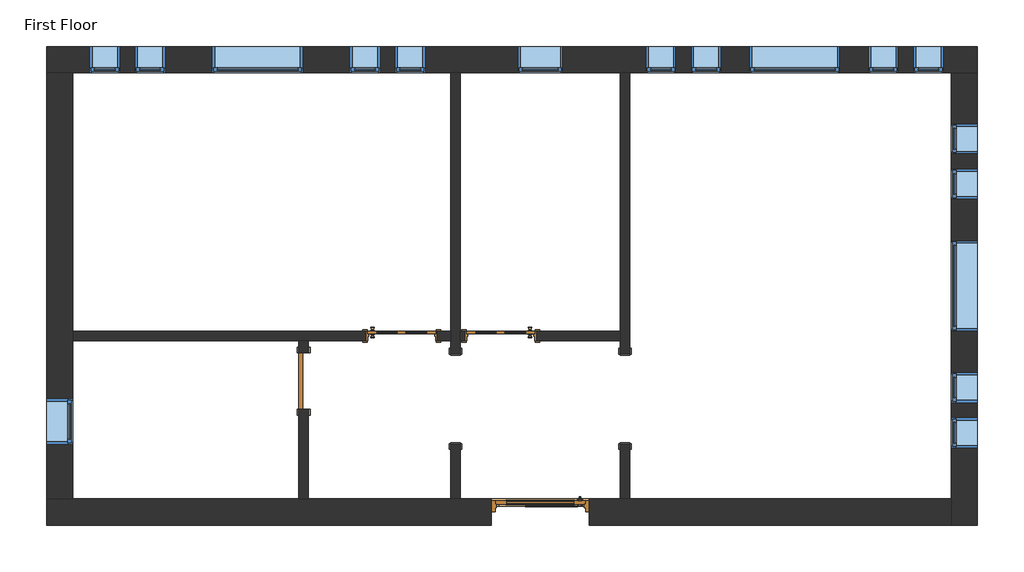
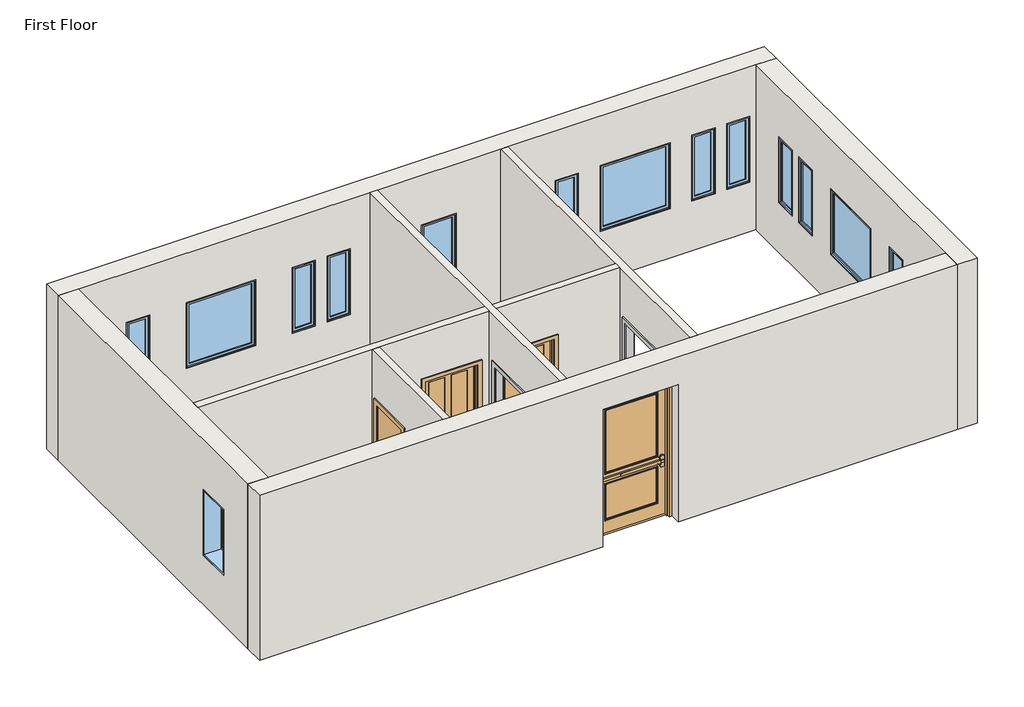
# One storey: 17 windows, 8 walls, 4 doors, 2 proxies.
"""IFC4 building model written with IfcOpenShell, lengths in millimetres."""

from ifc_helpers import new_model, si_unit, frame, origin, place, context, project, spatial, polyline, outline, extrude, faceted_brep, transform, mapped, element, save
from components import proxy_f44482cc, proxy_d58c73d0, door_734823c0, door_3a280f7b, door_48307b55, door_4d6c7550, window_da97879f, window_d61ef850, window_60baf983, window_6eb97611

model = new_model("IFC4")

# Units and contexts
model_context = context("Model", 3, world=origin())
ifc_project = project(units=[si_unit("LENGTHUNIT", "METRE", prefix="MILLI")], contexts=[model_context])

# Site, building, storey
site = spatial("IfcSite", under=ifc_project)
building = spatial("IfcBuilding", under=site)
storey = spatial("IfcBuildingStorey", under=building, Name="First Floor", Elevation=0.0)

# Proxies
placement = place(None, origin())
proxy_shape = proxy_f44482cc(model_context)
element("IfcBuildingElementProxy", 1, Name="Passage Opening-Cased : 48\" x 84\"", ObjectType="Passage Opening-Cased : 48\" x 84\"", at=placement, inside=storey, context=model_context, shape_type="MappedRepresentation", body=[
    mapped(proxy_shape, transform((-8577.1844712, 3224.0452741, 0.0), x_axis=(0.0, 1.0, 0.0), y_axis=(-1.0, 0.0, 0.0), z_axis=(0.0, 0.0, 1.0))),
])
proxy_2_shape = proxy_d58c73d0(model_context)
element("IfcBuildingElementProxy", 2, Name="Passage Opening-Cased : 48\" x 84\"", ObjectType="Passage Opening-Cased : 48\" x 84\"", at=placement, inside=storey, context=model_context, shape_type="MappedRepresentation", body=[
    mapped(proxy_2_shape, transform((-10863.1844712, 3224.0452741, 0.0), x_axis=(0.0, 1.0, 0.0), y_axis=(-1.0, 0.0, 0.0), z_axis=(0.0, 0.0, 1.0))),
])

# Doors
door_shape = door_734823c0(model_context)
element("IfcDoor", 3, ObjectType="Door-Exterior-Single-Two_Lite : 48\" x 96\"", at=placement, inside=storey, context=model_context, shape_type="MappedRepresentation", body=[
    mapped(door_shape, transform((-9720.1844712, 1685.5066174, 0.0), x_axis=(-1.0, 0.0, 0.0), y_axis=(0.0, -1.0, 0.0), z_axis=(0.0, 0.0, 1.0))),
])
door_2_shape = door_3a280f7b(model_context)
element("IfcDoor", 4, ObjectType="Door-Interior-Single-4_Panel-Wood : 36\" x 84\"", at=placement, inside=storey, context=model_context, shape_type="MappedRepresentation", body=[
    mapped(door_2_shape, transform((-10253.5844712, 4068.3441174, 0.0), x_axis=(-1.0, 0.0, 0.0), y_axis=(0.0, -1.0, 0.0), z_axis=(0.0, 0.0, 1.0))),
])
door_3_shape = door_48307b55(model_context)
element("IfcDoor", 5, ObjectType="Door-Interior-Single-4_Panel-Wood : 36\" x 84\"", at=placement, inside=storey, context=model_context, shape_type="MappedRepresentation", body=[
    mapped(door_3_shape, transform((-11588.6719712, 4068.3441174, 0.0), x_axis=(1.0, 0.0, 0.0), y_axis=(0.0, 1.0, 0.0), z_axis=(0.0, 0.0, 1.0))),
])
door_4_shape = door_4d6c7550(model_context)
element("IfcDoor", 6, ObjectType="Single-Flush : 30\" x 84\"", at=placement, inside=storey, context=model_context, shape_type="MappedRepresentation", body=[
    mapped(door_4_shape, transform((-12909.4719712, 3455.5691174, 0.0), x_axis=(0.0, 1.0, 0.0), y_axis=(-1.0, 0.0, 0.0), z_axis=(0.0, 0.0, 1.0))),
])

# Walls
element("IfcWall", 7, ObjectType="Exterior - Brick on Mtl. Stud", at=placement, inside=storey, context=model_context, shape_type="Brep", body=[
    faceted_brep([(-16373.3969712, 7611.6441174, 0.0), (-16020.9719712, 7611.6441174, 0.0), (-10926.6844712, 7611.6441174, 0.0), (-10799.6844712, 7611.6441174, 0.0), (-8640.6844712, 7611.6441174, 0.0), (-8513.6844712, 7611.6441174, 0.0), (-4181.3969712, 7611.6441174, 0.0), (-3828.9719712, 7611.6441174, 0.0), (-3828.9719712, 7611.6441174, 3048.0), (-4181.3969712, 7611.6441174, 3048.0), (-8513.6844712, 7611.6441174, 3048.0), (-8640.6844712, 7611.6441174, 3048.0), (-10799.6844712, 7611.6441174, 3048.0), (-10926.6844712, 7611.6441174, 3048.0), (-16020.9719712, 7611.6441174, 3048.0), (-16373.3969712, 7611.6441174, 3048.0), (-10024.9844712, 7611.6441174, 2133.6), (-9415.3844712, 7611.6441174, 2133.6), (-9415.3844712, 7611.6441174, 914.4), (-10024.9844712, 7611.6441174, 914.4), (-14139.7844712, 7611.6441174, 2133.6), (-12920.5844712, 7611.6441174, 2133.6), (-12920.5844712, 7611.6441174, 914.4), (-14139.7844712, 7611.6441174, 914.4), (-6900.7844712, 7611.6441174, 2133.6), (-5681.5844712, 7611.6441174, 2133.6), (-5681.5844712, 7611.6441174, 914.4), (-6900.7844712, 7611.6441174, 914.4), (-15790.7844712, 7611.6441174, 2133.6), (-15384.3844712, 7611.6441174, 2133.6), (-15384.3844712, 7611.6441174, 914.4), (-15790.7844712, 7611.6441174, 914.4), (-15181.1844712, 7611.6441174, 2133.6), (-14774.7844712, 7611.6441174, 2133.6), (-14774.7844712, 7611.6441174, 914.4), (-15181.1844712, 7611.6441174, 914.4), (-11879.1844712, 7611.6441174, 2133.6), (-11879.1844712, 7611.6441174, 914.4), (-12285.5844712, 7611.6441174, 914.4), (-12285.5844712, 7611.6441174, 2133.6), (-11269.5844712, 7611.6441174, 2133.6), (-11269.5844712, 7611.6441174, 914.4), (-11675.9844712, 7611.6441174, 914.4), (-11675.9844712, 7611.6441174, 2133.6), (-7688.1844712, 7611.6441174, 2133.6), (-7281.7844712, 7611.6441174, 2133.6), (-7281.7844712, 7611.6441174, 914.4), (-7688.1844712, 7611.6441174, 914.4), (-8297.7844712, 7611.6441174, 2133.6), (-7891.3844712, 7611.6441174, 2133.6), (-7891.3844712, 7611.6441174, 914.4), (-8297.7844712, 7611.6441174, 914.4), (-4894.1844712, 7611.6441174, 2133.6), (-4894.1844712, 7611.6441174, 914.4), (-5300.5844712, 7611.6441174, 914.4), (-5300.5844712, 7611.6441174, 2133.6), (-4284.5844712, 7611.6441174, 2133.6), (-4284.5844712, 7611.6441174, 914.4), (-4690.9844712, 7611.6441174, 914.4), (-4690.9844712, 7611.6441174, 2133.6), (-16373.3969712, 7964.0691174, 0.0), (-16373.3969712, 7964.0691174, 3048.0), (-3828.9719712, 7964.0691174, 3048.0), (-3828.9719712, 7964.0691174, 0.0), (-10024.9844712, 7964.0691174, 2133.6), (-10024.9844712, 7964.0691174, 914.4), (-9415.3844712, 7964.0691174, 914.4), (-9415.3844712, 7964.0691174, 2133.6), (-14139.7844712, 7964.0691174, 2133.6), (-14139.7844712, 7964.0691174, 914.4), (-12920.5844712, 7964.0691174, 914.4), (-12920.5844712, 7964.0691174, 2133.6), (-6900.7844712, 7964.0691174, 2133.6), (-6900.7844712, 7964.0691174, 914.4), (-5681.5844712, 7964.0691174, 914.4), (-5681.5844712, 7964.0691174, 2133.6), (-15790.7844712, 7964.0691174, 2133.6), (-15790.7844712, 7964.0691174, 914.4), (-15384.3844712, 7964.0691174, 914.4), (-15384.3844712, 7964.0691174, 2133.6), (-15181.1844712, 7964.0691174, 2133.6), (-15181.1844712, 7964.0691174, 914.4), (-14774.7844712, 7964.0691174, 914.4), (-14774.7844712, 7964.0691174, 2133.6), (-11879.1844712, 7964.0691174, 2133.6), (-12285.5844712, 7964.0691174, 2133.6), (-12285.5844712, 7964.0691174, 914.4), (-11879.1844712, 7964.0691174, 914.4), (-11269.5844712, 7964.0691174, 2133.6), (-11675.9844712, 7964.0691174, 2133.6), (-11675.9844712, 7964.0691174, 914.4), (-11269.5844712, 7964.0691174, 914.4), (-7688.1844712, 7964.0691174, 2133.6), (-7688.1844712, 7964.0691174, 914.4), (-7281.7844712, 7964.0691174, 914.4), (-7281.7844712, 7964.0691174, 2133.6), (-8297.7844712, 7964.0691174, 2133.6), (-8297.7844712, 7964.0691174, 914.4), (-7891.3844712, 7964.0691174, 914.4), (-7891.3844712, 7964.0691174, 2133.6), (-4894.1844712, 7964.0691174, 2133.6), (-5300.5844712, 7964.0691174, 2133.6), (-5300.5844712, 7964.0691174, 914.4), (-4894.1844712, 7964.0691174, 914.4), (-4284.5844712, 7964.0691174, 2133.6), (-4690.9844712, 7964.0691174, 2133.6), (-4690.9844712, 7964.0691174, 914.4), (-4284.5844712, 7964.0691174, 914.4)], [[[0, 1, 2, 3, 4, 5, 6, 7, 8, 9, 10, 11, 12, 13, 14, 15], [16, 17, 18, 19], [20, 21, 22, 23], [24, 25, 26, 27], [28, 29, 30, 31], [32, 33, 34, 35], [36, 37, 38, 39], [40, 41, 42, 43], [44, 45, 46, 47], [48, 49, 50, 51], [52, 53, 54, 55], [56, 57, 58, 59]], [[60, 61, 62, 63], [64, 65, 66, 67], [68, 69, 70, 71], [72, 73, 74, 75], [76, 77, 78, 79], [80, 81, 82, 83], [84, 85, 86, 87], [88, 89, 90, 91], [92, 93, 94, 95], [96, 97, 98, 99], [100, 101, 102, 103], [104, 105, 106, 107]], [[7, 6, 5, 4, 3, 2, 1, 0, 60, 63]], [[15, 14, 13, 12, 11, 10, 9, 8, 62, 61]], [[8, 7, 63, 62]], [[0, 15, 61, 60]], [[65, 64, 16, 19]], [[66, 65, 19, 18]], [[67, 66, 18, 17]], [[64, 67, 17, 16]], [[69, 68, 20, 23]], [[70, 69, 23, 22]], [[71, 70, 22, 21]], [[68, 71, 21, 20]], [[73, 72, 24, 27]], [[74, 73, 27, 26]], [[75, 74, 26, 25]], [[72, 75, 25, 24]], [[77, 76, 28, 31]], [[78, 77, 31, 30]], [[79, 78, 30, 29]], [[76, 79, 29, 28]], [[81, 80, 32, 35]], [[82, 81, 35, 34]], [[83, 82, 34, 33]], [[80, 83, 33, 32]], [[37, 36, 84, 87]], [[38, 37, 87, 86]], [[39, 38, 86, 85]], [[36, 39, 85, 84]], [[41, 40, 88, 91]], [[42, 41, 91, 90]], [[43, 42, 90, 89]], [[40, 43, 89, 88]], [[93, 92, 44, 47]], [[94, 93, 47, 46]], [[95, 94, 46, 45]], [[92, 95, 45, 44]], [[97, 96, 48, 51]], [[98, 97, 51, 50]], [[99, 98, 50, 49]], [[96, 99, 49, 48]], [[53, 52, 100, 103]], [[54, 53, 103, 102]], [[55, 54, 102, 101]], [[52, 55, 101, 100]], [[57, 56, 104, 107]], [[58, 57, 107, 106]], [[59, 58, 106, 105]], [[56, 59, 105, 104]]]),
])
element("IfcWall", 8, ObjectType="Exterior - Brick on Mtl. Stud", at=placement, inside=storey, context=model_context, shape_type="Brep", body=[
    faceted_brep([(-4181.3969712, 7611.6441174, 0.0), (-4181.3969712, 1868.0691174, 0.0), (-4181.3969712, 1515.6441174, 0.0), (-4181.3969712, 1515.6441174, 3048.0), (-4181.3969712, 1868.0691174, 3048.0), (-4181.3969712, 7611.6441174, 3048.0), (-4181.3969712, 5349.4566174, 2133.6), (-4181.3969712, 4130.2566174, 2133.6), (-4181.3969712, 4130.2566174, 914.4), (-4181.3969712, 5349.4566174, 914.4), (-4181.3969712, 6314.6566174, 2133.6), (-4181.3969712, 5908.2566174, 2133.6), (-4181.3969712, 5908.2566174, 914.4), (-4181.3969712, 6314.6566174, 914.4), (-4181.3969712, 6924.2566174, 2133.6), (-4181.3969712, 6517.8566174, 2133.6), (-4181.3969712, 6517.8566174, 914.4), (-4181.3969712, 6924.2566174, 914.4), (-4181.3969712, 3165.0566174, 2133.6), (-4181.3969712, 3165.0566174, 914.4), (-4181.3969712, 3571.4566174, 914.4), (-4181.3969712, 3571.4566174, 2133.6), (-4181.3969712, 2555.4566174, 2133.6), (-4181.3969712, 2555.4566174, 914.4), (-4181.3969712, 2961.8566174, 914.4), (-4181.3969712, 2961.8566174, 2133.6), (-3828.9719712, 7611.6441174, 0.0), (-3828.9719712, 7611.6441174, 3048.0), (-3828.9719712, 1515.6441174, 3048.0), (-3828.9719712, 1515.6441174, 0.0), (-3828.9719712, 5349.4566174, 2133.6), (-3828.9719712, 5349.4566174, 914.4), (-3828.9719712, 4130.2566174, 914.4), (-3828.9719712, 4130.2566174, 2133.6), (-3828.9719712, 6314.6566174, 2133.6), (-3828.9719712, 6314.6566174, 914.4), (-3828.9719712, 5908.2566174, 914.4), (-3828.9719712, 5908.2566174, 2133.6), (-3828.9719712, 6924.2566174, 2133.6), (-3828.9719712, 6924.2566174, 914.4), (-3828.9719712, 6517.8566174, 914.4), (-3828.9719712, 6517.8566174, 2133.6), (-3828.9719712, 3165.0566174, 2133.6), (-3828.9719712, 3571.4566174, 2133.6), (-3828.9719712, 3571.4566174, 914.4), (-3828.9719712, 3165.0566174, 914.4), (-3828.9719712, 2555.4566174, 2133.6), (-3828.9719712, 2961.8566174, 2133.6), (-3828.9719712, 2961.8566174, 914.4), (-3828.9719712, 2555.4566174, 914.4)], [[[0, 1, 2, 3, 4, 5], [6, 7, 8, 9], [10, 11, 12, 13], [14, 15, 16, 17], [18, 19, 20, 21], [22, 23, 24, 25]], [[26, 27, 28, 29], [30, 31, 32, 33], [34, 35, 36, 37], [38, 39, 40, 41], [42, 43, 44, 45], [46, 47, 48, 49]], [[2, 1, 0, 26, 29]], [[5, 4, 3, 28, 27]], [[0, 5, 27, 26]], [[3, 2, 29, 28]], [[31, 30, 6, 9]], [[32, 31, 9, 8]], [[33, 32, 8, 7]], [[30, 33, 7, 6]], [[35, 34, 10, 13]], [[36, 35, 13, 12]], [[37, 36, 12, 11]], [[34, 37, 11, 10]], [[39, 38, 14, 17]], [[40, 39, 17, 16]], [[41, 40, 16, 15]], [[38, 41, 15, 14]], [[19, 18, 42, 45]], [[20, 19, 45, 44]], [[21, 20, 44, 43]], [[18, 21, 43, 42]], [[23, 22, 46, 49]], [[24, 23, 49, 48]], [[25, 24, 48, 47]], [[22, 25, 47, 46]]]),
])
element("IfcWall", 9, ObjectType="Exterior - Brick on Mtl. Stud", at=placement, inside=storey, context=model_context, shape_type="Brep", body=[
    faceted_brep([(-16373.3969712, 1868.0691174, 3048.0), (-16020.9719712, 1868.0691174, 3048.0), (-12972.9719712, 1868.0691174, 3048.0), (-12845.9719712, 1868.0691174, 3048.0), (-10926.6844712, 1868.0691174, 3048.0), (-10799.6844712, 1868.0691174, 3048.0), (-8640.6844712, 1868.0691174, 3048.0), (-8513.6844712, 1868.0691174, 3048.0), (-4181.3969712, 1868.0691174, 3048.0), (-4181.3969712, 1868.0691174, 0.0), (-8513.6844712, 1868.0691174, 0.0), (-8640.6844712, 1868.0691174, 0.0), (-9059.7844712, 1868.0691174, 0.0), (-9059.7844712, 1868.0691174, 2540.0), (-10380.5844712, 1868.0691174, 2540.0), (-10380.5844712, 1868.0691174, 0.0), (-10799.6844712, 1868.0691174, 0.0), (-10926.6844712, 1868.0691174, 0.0), (-12845.9719712, 1868.0691174, 0.0), (-12972.9719712, 1868.0691174, 0.0), (-16020.9719712, 1868.0691174, 0.0), (-16373.3969712, 1868.0691174, 0.0), (-4181.3969712, 1515.6441174, 3048.0), (-16373.3969712, 1515.6441174, 3048.0), (-16373.3969712, 1515.6441174, 0.0), (-10380.5844712, 1515.6441174, 0.0), (-10380.5844712, 1515.6441174, 2540.0), (-9059.7844712, 1515.6441174, 2540.0), (-9059.7844712, 1515.6441174, 0.0), (-4181.3969712, 1515.6441174, 0.0)], [[[0, 1, 2, 3, 4, 5, 6, 7, 8, 9, 10, 11, 12, 13, 14, 15, 16, 17, 18, 19, 20, 21]], [[22, 23, 24, 25, 26, 27, 28, 29]], [[9, 29, 28, 12, 11, 10]], [[24, 21, 20, 19, 18, 17, 16, 15, 25]], [[8, 7, 6, 5, 4, 3, 2, 1, 0, 23, 22]], [[9, 8, 22, 29]], [[0, 21, 24, 23]], [[14, 26, 25, 15]], [[26, 14, 13, 27]], [[27, 13, 12, 28]]]),
])
element("IfcWall", 10, ObjectType="Exterior - Brick on Mtl. Stud", at=placement, inside=storey, context=model_context, shape_type="Brep", body=[
    faceted_brep([(-16020.9719712, 1868.0691174, 0.0), (-16020.9719712, 4001.6691174, 0.0), (-16020.9719712, 4128.6691174, 0.0), (-16020.9719712, 7611.6441174, 0.0), (-16020.9719712, 7611.6441174, 3048.0), (-16020.9719712, 4128.6691174, 3048.0), (-16020.9719712, 4001.6691174, 3048.0), (-16020.9719712, 1868.0691174, 3048.0), (-16020.9719712, 2606.2566174, 2133.6), (-16020.9719712, 3215.8566174, 2133.6), (-16020.9719712, 3215.8566174, 914.4), (-16020.9719712, 2606.2566174, 914.4), (-16373.3969712, 1868.0691174, 0.0), (-16373.3969712, 1868.0691174, 3048.0), (-16373.3969712, 7611.6441174, 3048.0), (-16373.3969712, 7611.6441174, 0.0), (-16373.3969712, 2606.2566174, 2133.6), (-16373.3969712, 2606.2566174, 914.4), (-16373.3969712, 3215.8566174, 914.4), (-16373.3969712, 3215.8566174, 2133.6)], [[[0, 1, 2, 3, 4, 5, 6, 7], [8, 9, 10, 11]], [[12, 13, 14, 15], [16, 17, 18, 19]], [[3, 2, 1, 0, 12, 15]], [[7, 6, 5, 4, 14, 13]], [[0, 7, 13, 12]], [[4, 3, 15, 14]], [[17, 16, 8, 11]], [[18, 17, 11, 10]], [[19, 18, 10, 9]], [[16, 19, 9, 8]]]),
])
element("IfcWall", 11, ObjectType="Interior - 5\" Partition (2-hr)", at=placement, inside=storey, context=model_context, shape_type="Brep", body=[
    faceted_brep([(-8640.6844712, 7611.6441174, 0.0), (-8640.6844712, 4128.6691174, 0.0), (-8640.6844712, 4001.6691174, 0.0), (-8640.6844712, 3825.4566174, 0.0), (-8640.6844712, 3825.4566174, 2133.6), (-8640.6844712, 2606.2566174, 2133.6), (-8640.6844712, 2606.2566174, 0.0), (-8640.6844712, 1868.0691174, 0.0), (-8640.6844712, 1868.0691174, 3048.0), (-8640.6844712, 4001.6691174, 3048.0), (-8640.6844712, 4128.6691174, 3048.0), (-8640.6844712, 7611.6441174, 3048.0), (-8513.6844712, 3825.4566174, 2133.6), (-8513.6844712, 3825.4566174, 0.0), (-8513.6844712, 7611.6441174, 0.0), (-8513.6844712, 7611.6441174, 3048.0), (-8513.6844712, 1868.0691174, 3048.0), (-8513.6844712, 1868.0691174, 0.0), (-8513.6844712, 2606.2566174, 0.0), (-8513.6844712, 2606.2566174, 2133.6)], [[[0, 1, 2, 3, 4, 5, 6, 7, 8, 9, 10, 11]], [[12, 13, 14, 15, 16, 17, 18, 19]], [[18, 17, 7, 6]], [[14, 13, 3, 2, 1, 0]], [[11, 10, 9, 8, 16, 15]], [[0, 11, 15, 14]], [[8, 7, 17, 16]], [[6, 5, 19, 18]], [[4, 3, 13, 12]], [[5, 4, 12, 19]]]),
])
element("IfcWall", 12, ObjectType="Interior - 5\" Partition (2-hr)", at=placement, inside=storey, context=model_context, shape_type="Brep", body=[
    faceted_brep([(-10926.6844712, 7611.6441174, 0.0), (-10926.6844712, 4128.6691174, 0.0), (-10926.6844712, 4001.6691174, 0.0), (-10926.6844712, 3825.4566174, 0.0), (-10926.6844712, 3825.4566174, 2133.6), (-10926.6844712, 2606.2566174, 2133.6), (-10926.6844712, 2606.2566174, 0.0), (-10926.6844712, 1868.0691174, 0.0), (-10926.6844712, 1868.0691174, 3048.0), (-10926.6844712, 4001.6691174, 3048.0), (-10926.6844712, 4128.6691174, 3048.0), (-10926.6844712, 7611.6441174, 3048.0), (-10799.6844712, 3825.4566174, 2133.6), (-10799.6844712, 3825.4566174, 0.0), (-10799.6844712, 4001.6691174, 0.0), (-10799.6844712, 4128.6691174, 0.0), (-10799.6844712, 7611.6441174, 0.0), (-10799.6844712, 7611.6441174, 3048.0), (-10799.6844712, 4128.6691174, 3048.0), (-10799.6844712, 4001.6691174, 3048.0), (-10799.6844712, 1868.0691174, 3048.0), (-10799.6844712, 1868.0691174, 0.0), (-10799.6844712, 2606.2566174, 0.0), (-10799.6844712, 2606.2566174, 2133.6)], [[[0, 1, 2, 3, 4, 5, 6, 7, 8, 9, 10, 11]], [[12, 13, 14, 15, 16, 17, 18, 19, 20, 21, 22, 23]], [[22, 21, 7, 6]], [[16, 15, 14, 13, 3, 2, 1, 0]], [[11, 10, 9, 8, 20, 19, 18, 17]], [[0, 11, 17, 16]], [[8, 7, 21, 20]], [[6, 5, 23, 22]], [[4, 3, 13, 12]], [[5, 4, 12, 23]]]),
])
element("IfcWall", 13, ObjectType="Interior - 5\" Partition (2-hr)", at=placement, inside=storey, context=model_context, shape_type="Brep", body=[
    faceted_brep([(-16020.9719712, 4001.6691174, 3048.0), (-16020.9719712, 4001.6691174, 0.0), (-12972.9719712, 4001.6691174, 0.0), (-12845.9719712, 4001.6691174, 0.0), (-12071.2719712, 4001.6691174, 0.0), (-12071.2719712, 4001.6691174, 2159.0), (-11106.0719712, 4001.6691174, 2159.0), (-11106.0719712, 4001.6691174, 0.0), (-10926.6844712, 4001.6691174, 0.0), (-10926.6844712, 4001.6691174, 3048.0), (-12845.9719712, 4001.6691174, 3048.0), (-12972.9719712, 4001.6691174, 3048.0), (-16020.9719712, 4128.6691174, 0.0), (-16020.9719712, 4128.6691174, 3048.0), (-10926.6844712, 4128.6691174, 3048.0), (-10926.6844712, 4128.6691174, 0.0), (-11106.0719712, 4128.6691174, 0.0), (-11106.0719712, 4128.6691174, 2159.0), (-12071.2719712, 4128.6691174, 2159.0), (-12071.2719712, 4128.6691174, 0.0)], [[[0, 1, 2, 3, 4, 5, 6, 7, 8, 9, 10, 11]], [[12, 13, 14, 15, 16, 17, 18, 19]], [[1, 12, 19, 4, 3, 2]], [[7, 16, 15, 8]], [[13, 0, 11, 10, 9, 14]], [[1, 0, 13, 12]], [[9, 8, 15, 14]], [[6, 17, 16, 7]], [[17, 6, 5, 18]], [[18, 5, 4, 19]]]),
    faceted_brep([(-8640.6844712, 4001.6691174, 0.0), (-8640.6844712, 4001.6691174, 3048.0), (-10799.6844712, 4001.6691174, 3048.0), (-10799.6844712, 4001.6691174, 0.0), (-10736.1844712, 4001.6691174, 0.0), (-10736.1844712, 4001.6691174, 2159.0), (-9770.9844712, 4001.6691174, 2159.0), (-9770.9844712, 4001.6691174, 0.0), (-8640.6844712, 4128.6691174, 3048.0), (-8640.6844712, 4128.6691174, 0.0), (-9770.9844712, 4128.6691174, 0.0), (-9770.9844712, 4128.6691174, 2159.0), (-10736.1844712, 4128.6691174, 2159.0), (-10736.1844712, 4128.6691174, 0.0), (-10799.6844712, 4128.6691174, 0.0), (-10799.6844712, 4128.6691174, 3048.0)], [[[0, 1, 2, 3, 4, 5, 6, 7]], [[8, 9, 10, 11, 12, 13, 14, 15]], [[9, 0, 7, 10]], [[13, 4, 3, 14]], [[1, 8, 15, 2]], [[1, 0, 9, 8]], [[3, 2, 15, 14]], [[5, 4, 13, 12]], [[6, 5, 12, 11]], [[7, 6, 11, 10]]]),
])
element("IfcWall", 14, ObjectType="Interior - 5\" Partition (2-hr)", at=placement, inside=storey, context=model_context, shape_type="SweptSolid", body=[
    extrude(outline(polyline([(4001.6691174, 0.0), (3836.5691174, 0.0), (3836.5691174, 2133.6), (3074.5691174, 2133.6), (3074.5691174, 0.0), (1868.0691174, 0.0), (1868.0691174, 3048.0), (4001.6691174, 3048.0), (4001.6691174, 0.0)])), frame((-12972.9719712, 0.0, 0.0), z_axis=(1.0, 0.0, 0.0), x_axis=(0.0, 1.0, 0.0)), (0.0, 0.0, 1.0), 127.0),
])

# Windows
window_shape = window_da97879f(model_context)
element("IfcWindow", 15, ObjectType="Fixed : 16\" x 48\"", at=placement, inside=storey, context=model_context, shape_type="MappedRepresentation", body=[
    mapped(window_shape, transform((-15625.6844712, 7787.8566174, 0.0), x_axis=(-1.0, 0.0, 0.0), y_axis=(0.0, -1.0, 0.0), z_axis=(0.0, 0.0, 1.0))),
])
element("IfcWindow", 16, ObjectType="Fixed : 16\" x 48\"", at=placement, inside=storey, context=model_context, shape_type="MappedRepresentation", body=[
    mapped(window_shape, transform((-15016.0844712, 7787.8566174, 0.0), x_axis=(-1.0, 0.0, 0.0), y_axis=(0.0, -1.0, 0.0), z_axis=(0.0, 0.0, 1.0))),
])
element("IfcWindow", 17, ObjectType="Fixed : 16\" x 48\"", at=placement, inside=storey, context=model_context, shape_type="MappedRepresentation", body=[
    mapped(window_shape, transform((-8132.6844712, 7787.8566174, 0.0), x_axis=(-1.0, 0.0, 0.0), y_axis=(0.0, -1.0, 0.0), z_axis=(0.0, 0.0, 1.0))),
])
element("IfcWindow", 18, ObjectType="Fixed : 16\" x 48\"", at=placement, inside=storey, context=model_context, shape_type="MappedRepresentation", body=[
    mapped(window_shape, transform((-7523.0844712, 7787.8566174, 0.0), x_axis=(-1.0, 0.0, 0.0), y_axis=(0.0, -1.0, 0.0), z_axis=(0.0, 0.0, 1.0))),
])
element("IfcWindow", 19, ObjectType="Fixed : 16\" x 48\"", at=placement, inside=storey, context=model_context, shape_type="MappedRepresentation", body=[
    mapped(window_shape, transform((-4005.1844712, 6759.1566174, 0.0), x_axis=(0.0, 1.0, 0.0), y_axis=(-1.0, 0.0, 0.0), z_axis=(0.0, 0.0, 1.0))),
])
element("IfcWindow", 20, ObjectType="Fixed : 16\" x 48\"", at=placement, inside=storey, context=model_context, shape_type="MappedRepresentation", body=[
    mapped(window_shape, transform((-4005.1844712, 6149.5566174, 0.0), x_axis=(0.0, 1.0, 0.0), y_axis=(-1.0, 0.0, 0.0), z_axis=(0.0, 0.0, 1.0))),
])
window_2_shape = window_d61ef850(model_context)
element("IfcWindow", 21, ObjectType="Fixed : 16\" x 48\"", at=placement, inside=storey, context=model_context, shape_type="MappedRepresentation", body=[
    mapped(window_2_shape, transform((-11434.6844712, 7787.8566174, 0.0), x_axis=(1.0, 0.0, 0.0), y_axis=(0.0, 1.0, 0.0), z_axis=(0.0, 0.0, 1.0))),
])
element("IfcWindow", 22, ObjectType="Fixed : 16\" x 48\"", at=placement, inside=storey, context=model_context, shape_type="MappedRepresentation", body=[
    mapped(window_2_shape, transform((-12044.2844712, 7787.8566174, 0.0), x_axis=(1.0, 0.0, 0.0), y_axis=(0.0, 1.0, 0.0), z_axis=(0.0, 0.0, 1.0))),
])
element("IfcWindow", 23, ObjectType="Fixed : 16\" x 48\"", at=placement, inside=storey, context=model_context, shape_type="MappedRepresentation", body=[
    mapped(window_2_shape, transform((-4449.6844712, 7787.8566174, 0.0), x_axis=(1.0, 0.0, 0.0), y_axis=(0.0, 1.0, 0.0), z_axis=(0.0, 0.0, 1.0))),
])
element("IfcWindow", 24, ObjectType="Fixed : 16\" x 48\"", at=placement, inside=storey, context=model_context, shape_type="MappedRepresentation", body=[
    mapped(window_2_shape, transform((-5059.2844712, 7787.8566174, 0.0), x_axis=(1.0, 0.0, 0.0), y_axis=(0.0, 1.0, 0.0), z_axis=(0.0, 0.0, 1.0))),
])
element("IfcWindow", 25, ObjectType="Fixed : 16\" x 48\"", at=placement, inside=storey, context=model_context, shape_type="MappedRepresentation", body=[
    mapped(window_2_shape, transform((-4005.1844712, 2720.5566174, 0.0), x_axis=(0.0, -1.0, 0.0), y_axis=(1.0, 0.0, 0.0), z_axis=(0.0, 0.0, 1.0))),
])
element("IfcWindow", 26, ObjectType="Fixed : 16\" x 48\"", at=placement, inside=storey, context=model_context, shape_type="MappedRepresentation", body=[
    mapped(window_2_shape, transform((-4005.1844712, 3330.1566174, 0.0), x_axis=(0.0, -1.0, 0.0), y_axis=(1.0, 0.0, 0.0), z_axis=(0.0, 0.0, 1.0))),
])
window_3_shape = window_60baf983(model_context)
element("IfcWindow", 27, ObjectType="Fixed : 24\" x 48\"", at=placement, inside=storey, context=model_context, shape_type="MappedRepresentation", body=[
    mapped(window_3_shape, transform((-9758.2844712, 7787.8566174, 0.0), x_axis=(-1.0, 0.0, 0.0), y_axis=(0.0, -1.0, 0.0), z_axis=(0.0, 0.0, 1.0))),
])
element("IfcWindow", 28, ObjectType="Fixed : 24\" x 48\"", at=placement, inside=storey, context=model_context, shape_type="MappedRepresentation", body=[
    mapped(window_3_shape, transform((-16197.1844712, 2872.9566174, 0.0), x_axis=(0.0, -1.0, 0.0), y_axis=(1.0, 0.0, 0.0), z_axis=(0.0, 0.0, 1.0))),
])
window_4_shape = window_6eb97611(model_context)
element("IfcWindow", 29, ObjectType="Fixed : 48\" x 48\"", at=placement, inside=storey, context=model_context, shape_type="MappedRepresentation", body=[
    mapped(window_4_shape, transform((-13568.2844712, 7787.8566174, 0.0), x_axis=(-1.0, 0.0, 0.0), y_axis=(0.0, -1.0, 0.0), z_axis=(0.0, 0.0, 1.0))),
])
element("IfcWindow", 30, ObjectType="Fixed : 48\" x 48\"", at=placement, inside=storey, context=model_context, shape_type="MappedRepresentation", body=[
    mapped(window_4_shape, transform((-6329.2844712, 7787.8566174, 0.0), x_axis=(-1.0, 0.0, 0.0), y_axis=(0.0, -1.0, 0.0), z_axis=(0.0, 0.0, 1.0))),
])
element("IfcWindow", 31, ObjectType="Fixed : 48\" x 48\"", at=placement, inside=storey, context=model_context, shape_type="MappedRepresentation", body=[
    mapped(window_4_shape, transform((-4005.1844712, 4777.9566174, 0.0), x_axis=(0.0, 1.0, 0.0), y_axis=(-1.0, 0.0, 0.0), z_axis=(0.0, 0.0, 1.0))),
])

save(model, "model.ifc")
